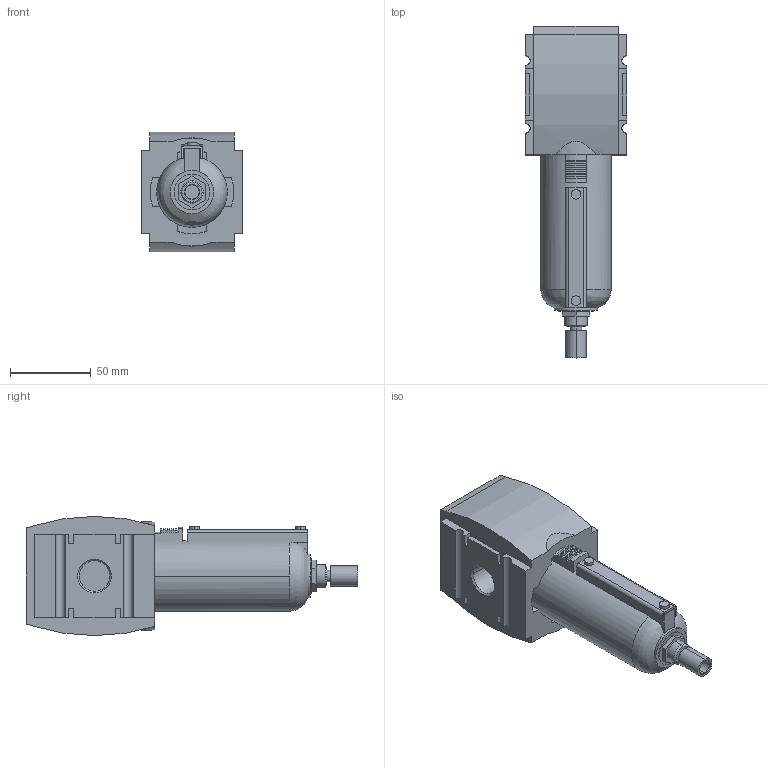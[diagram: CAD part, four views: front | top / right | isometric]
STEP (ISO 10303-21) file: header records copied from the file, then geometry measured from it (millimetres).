
FILE_DESCRIPTION((''),'2;1');
FILE_NAME('R412007017_ASM','2019-08-20T',('PDH2HC'),(''),'CREO PARAMETRIC BY PTC INC, 2016260','CREO PARAMETRIC BY PTC INC, 2016260','');
FILE_SCHEMA(('CONFIG_CONTROL_DESIGN'));
Length unit declared in the file: millimetre
Products named in the file (3): R412007017; AS3_RES_METAL_FILTER_FULLY; R412007017_ASM
Assembly tree (2 placements, depth 2):
  R412007017_ASM
    R412007017
    AS3_RES_METAL_FILTER_FULLY
Bounding box: 63 x 206 x 74 mm (x, y, z)
Volume: 361863.2 mm3; surface area: 73805.1 mm2
Topology: 2 solids, 2 shells, 199 faces, 528 edges, 348 vertices
Faces by surface type: plane 131, cylinder 57, cone 8, bspline 3
Entity records: 6512 total; most frequent: CARTESIAN_POINT 1343, DIRECTION 1070, ORIENTED_EDGE 1056, EDGE_CURVE 528, VECTOR 368, LINE 368, AXIS2_PLACEMENT_3D 351, VERTEX_POINT 348
